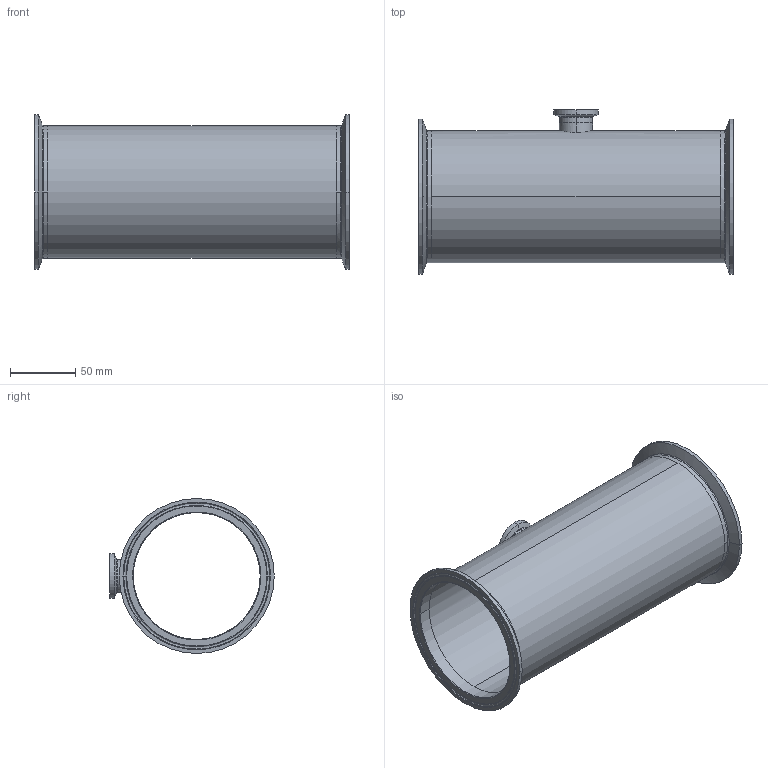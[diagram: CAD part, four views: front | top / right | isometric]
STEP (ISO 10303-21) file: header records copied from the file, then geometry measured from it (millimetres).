
FILE_DESCRIPTION (( 'STEP AP214' ), '1' );
FILE_NAME ('TEG7RS6L4.0x1.0-..Type A.STEP', '2016-05-24T11:02:42', ( 'eran' ), ( '' ), 'SwSTEP 2.0', 'SolidWorks 2016', '' );
FILE_SCHEMA (( 'AUTOMOTIVE_DESIGN' ));
Length unit declared in the file: millimetre
Products named in the file (1): TEG7RS6L4.0x1.0-..Type A
Bounding box: 241.4 x 126.16 x 118.92 mm (x, y, z)
Volume: 187102 mm3; surface area: 168745.4 mm2
Topology: 4 solids, 4 shells, 84 faces, 198 edges, 126 vertices
Faces by surface type: cylinder 28, bspline 28, cone 16, plane 12
Entity records: 4109 total; most frequent: CARTESIAN_POINT 2125, DIRECTION 426, ORIENTED_EDGE 396, EDGE_CURVE 198, AXIS2_PLACEMENT_3D 191, CIRCLE 134, VERTEX_POINT 126, EDGE_LOOP 98
